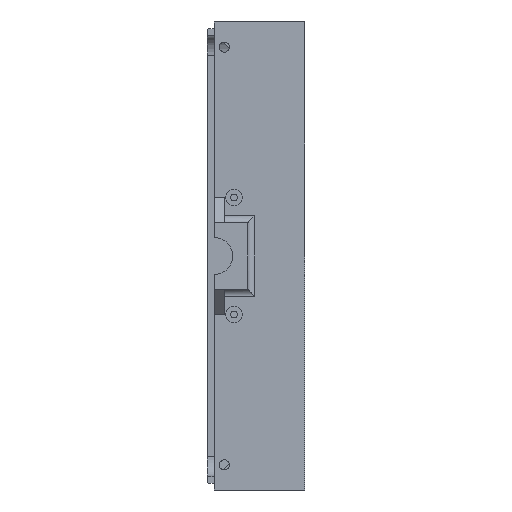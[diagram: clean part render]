
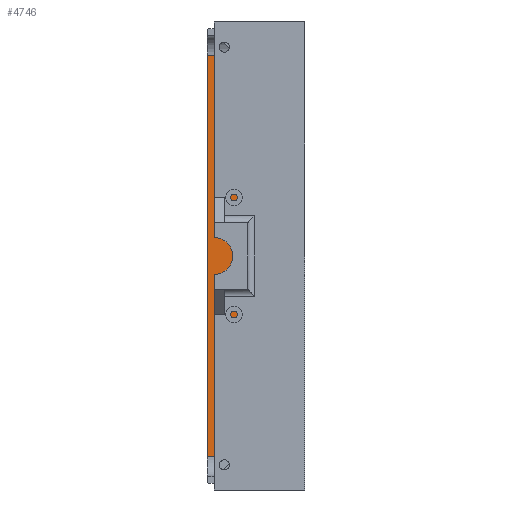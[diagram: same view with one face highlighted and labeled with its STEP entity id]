
A CAD part, left-side view. The second image highlights one B-rep face of the part: STEP entity #4746.
In plain terms, the highlighted planar face has unit normal (-1, 0, 0).
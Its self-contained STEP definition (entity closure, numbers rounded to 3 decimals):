
#157 = DIRECTION ( 'NONE',  ( 0., -1., 0. ) ) ;
#234 = ORIENTED_EDGE ( 'NONE', *, *, #4125, .F. ) ;
#353 = VECTOR ( 'NONE', #157, 1000. ) ;
#398 = ORIENTED_EDGE ( 'NONE', *, *, #4592, .F. ) ;
#432 = VECTOR ( 'NONE', #1367, 1000. ) ;
#434 = DIRECTION ( 'NONE',  ( 0., 0., -1. ) ) ;
#621 = VECTOR ( 'NONE', #5667, 1000. ) ;
#700 = VERTEX_POINT ( 'NONE', #3786 ) ;
#766 = EDGE_CURVE ( 'NONE', #6137, #2462, #4277, .T. ) ;
#770 = VERTEX_POINT ( 'NONE', #4498 ) ;
#1022 = PLANE ( 'NONE',  #2095 ) ;
#1038 = CARTESIAN_POINT ( 'NONE',  ( 116., -12.9, -1.77 ) ) ;
#1115 = DIRECTION ( 'NONE',  ( 0., 0., -1. ) ) ;
#1367 = DIRECTION ( 'NONE',  ( 0., 0., -1. ) ) ;
#1432 = DIRECTION ( 'NONE',  ( 0., 0., -1. ) ) ;
#1603 = VECTOR ( 'NONE', #1432, 1000. ) ;
#2068 = LINE ( 'NONE', #6147, #432 ) ;
#2095 = AXIS2_PLACEMENT_3D ( 'NONE', #7116, #5839, #434 ) ;
#2191 = CARTESIAN_POINT ( 'NONE',  ( 116., -15.9, 70. ) ) ;
#2205 = VECTOR ( 'NONE', #1115, 1000. ) ;
#2255 = EDGE_CURVE ( 'NONE', #6649, #4454, #2606, .T. ) ;
#2462 = VERTEX_POINT ( 'NONE', #2986 ) ;
#2564 = ORIENTED_EDGE ( 'NONE', *, *, #5058, .F. ) ;
#2606 = LINE ( 'NONE', #2191, #2205 ) ;
#2851 = VECTOR ( 'NONE', #4766, 1000. ) ;
#2947 = DIRECTION ( 'NONE',  ( 0., -1., 0. ) ) ;
#2986 = CARTESIAN_POINT ( 'NONE',  ( 116., -15.9, -1.77 ) ) ;
#3040 = LINE ( 'NONE', #5847, #5948 ) ;
#3394 = VERTEX_POINT ( 'NONE', #6942 ) ;
#3430 = LINE ( 'NONE', #3951, #6619 ) ;
#3786 = CARTESIAN_POINT ( 'NONE',  ( 116., 9.132, -60. ) ) ;
#3869 = ORIENTED_EDGE ( 'NONE', *, *, #7250, .F. ) ;
#3919 = CARTESIAN_POINT ( 'NONE',  ( 116., 9.132, 70. ) ) ;
#3951 = CARTESIAN_POINT ( 'NONE',  ( 116., 7.1, -60. ) ) ;
#4096 = ORIENTED_EDGE ( 'NONE', *, *, #766, .F. ) ;
#4125 = EDGE_CURVE ( 'NONE', #4454, #700, #3430, .T. ) ;
#4269 = CARTESIAN_POINT ( 'NONE',  ( 116., -15.9, -60. ) ) ;
#4277 = LINE ( 'NONE', #6805, #1603 ) ;
#4306 = EDGE_CURVE ( 'NONE', #3394, #2462, #4830, .T. ) ;
#4454 = VERTEX_POINT ( 'NONE', #4269 ) ;
#4498 = CARTESIAN_POINT ( 'NONE',  ( 116., 9.132, 60. ) ) ;
#4533 = DIRECTION ( 'NONE',  ( 0., 1., 0. ) ) ;
#4592 = EDGE_CURVE ( 'NONE', #7083, #6649, #3040, .T. ) ;
#4746 = ADVANCED_FACE ( 'NONE', ( #6978 ), #1022, .F. ) ;
#4765 = CARTESIAN_POINT ( 'NONE',  ( 116., -12.9, -7.77 ) ) ;
#4766 = DIRECTION ( 'NONE',  ( 0., -1., 0. ) ) ;
#4830 = LINE ( 'NONE', #1038, #2851 ) ;
#4961 = CARTESIAN_POINT ( 'NONE',  ( 116., -15.9, -7.77 ) ) ;
#5058 = EDGE_CURVE ( 'NONE', #3394, #7083, #2068, .T. ) ;
#5418 = CARTESIAN_POINT ( 'NONE',  ( 116., -15.9, 60. ) ) ;
#5621 = EDGE_CURVE ( 'NONE', #770, #700, #5825, .T. ) ;
#5629 = ORIENTED_EDGE ( 'NONE', *, *, #4306, .T. ) ;
#5667 = DIRECTION ( 'NONE',  ( 0., 0., -1. ) ) ;
#5825 = LINE ( 'NONE', #3919, #621 ) ;
#5839 = DIRECTION ( 'NONE',  ( 1., 0., 0. ) ) ;
#5847 = CARTESIAN_POINT ( 'NONE',  ( 116., -12.9, -7.77 ) ) ;
#5948 = VECTOR ( 'NONE', #2947, 1000. ) ;
#6137 = VERTEX_POINT ( 'NONE', #5418 ) ;
#6147 = CARTESIAN_POINT ( 'NONE',  ( 116., -12.9, -1.77 ) ) ;
#6619 = VECTOR ( 'NONE', #4533, 1000. ) ;
#6649 = VERTEX_POINT ( 'NONE', #4961 ) ;
#6805 = CARTESIAN_POINT ( 'NONE',  ( 116., -15.9, 70. ) ) ;
#6857 = ORIENTED_EDGE ( 'NONE', *, *, #5621, .T. ) ;
#6942 = CARTESIAN_POINT ( 'NONE',  ( 116., -12.9, -1.77 ) ) ;
#6978 = FACE_OUTER_BOUND ( 'NONE', #7527, .T. ) ;
#6993 = LINE ( 'NONE', #7426, #353 ) ;
#7083 = VERTEX_POINT ( 'NONE', #4765 ) ;
#7116 = CARTESIAN_POINT ( 'NONE',  ( 116., 7.1, 70. ) ) ;
#7250 = EDGE_CURVE ( 'NONE', #770, #6137, #6993, .T. ) ;
#7426 = CARTESIAN_POINT ( 'NONE',  ( 116., 7.1, 60. ) ) ;
#7458 = ORIENTED_EDGE ( 'NONE', *, *, #2255, .F. ) ;
#7527 = EDGE_LOOP ( 'NONE', ( #398, #2564, #5629, #4096, #3869, #6857, #234, #7458 ) ) ;
